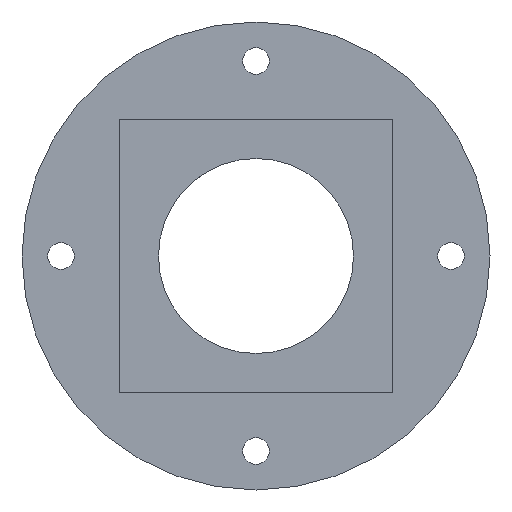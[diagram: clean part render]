
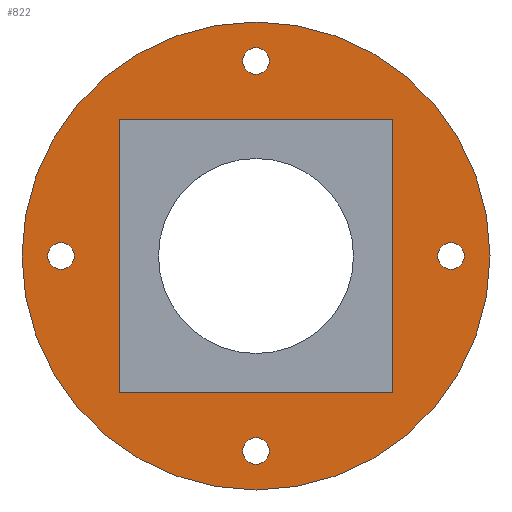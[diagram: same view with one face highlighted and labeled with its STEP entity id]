
A CAD part, front view. The second image highlights one B-rep face of the part: STEP entity #822.
In plain terms, the highlighted planar face has unit normal (0, -1, 0).
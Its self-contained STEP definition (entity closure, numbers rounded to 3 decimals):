
#40=FACE_BOUND('',#163,.T.);
#41=FACE_BOUND('',#164,.T.);
#42=FACE_BOUND('',#165,.T.);
#43=FACE_BOUND('',#166,.T.);
#44=FACE_BOUND('',#167,.T.);
#56=CIRCLE('',#893,1.7);
#58=CIRCLE('',#896,1.7);
#60=CIRCLE('',#899,1.7);
#62=CIRCLE('',#902,1.7);
#64=CIRCLE('',#905,30.);
#104=FACE_OUTER_BOUND('',#162,.T.);
#162=EDGE_LOOP('',(#713));
#163=EDGE_LOOP('',(#714,#715,#716,#717));
#164=EDGE_LOOP('',(#718));
#165=EDGE_LOOP('',(#719));
#166=EDGE_LOOP('',(#720));
#167=EDGE_LOOP('',(#721));
#252=LINE('',#1396,#340);
#253=LINE('',#1398,#341);
#254=LINE('',#1400,#342);
#255=LINE('',#1401,#343);
#340=VECTOR('',#1104,10.);
#341=VECTOR('',#1105,10.);
#342=VECTOR('',#1106,10.);
#343=VECTOR('',#1107,10.);
#407=VERTEX_POINT('',#1365);
#409=VERTEX_POINT('',#1371);
#411=VERTEX_POINT('',#1377);
#413=VERTEX_POINT('',#1383);
#415=VERTEX_POINT('',#1389);
#416=VERTEX_POINT('',#1394);
#417=VERTEX_POINT('',#1395);
#418=VERTEX_POINT('',#1397);
#419=VERTEX_POINT('',#1399);
#506=EDGE_CURVE('',#407,#407,#56,.T.);
#509=EDGE_CURVE('',#409,#409,#58,.T.);
#512=EDGE_CURVE('',#411,#411,#60,.T.);
#515=EDGE_CURVE('',#413,#413,#62,.T.);
#518=EDGE_CURVE('',#415,#415,#64,.T.);
#519=EDGE_CURVE('',#416,#417,#252,.T.);
#520=EDGE_CURVE('',#417,#418,#253,.T.);
#521=EDGE_CURVE('',#418,#419,#254,.T.);
#522=EDGE_CURVE('',#419,#416,#255,.T.);
#713=ORIENTED_EDGE('',*,*,#518,.F.);
#714=ORIENTED_EDGE('',*,*,#519,.T.);
#715=ORIENTED_EDGE('',*,*,#520,.T.);
#716=ORIENTED_EDGE('',*,*,#521,.T.);
#717=ORIENTED_EDGE('',*,*,#522,.T.);
#718=ORIENTED_EDGE('',*,*,#506,.T.);
#719=ORIENTED_EDGE('',*,*,#509,.T.);
#720=ORIENTED_EDGE('',*,*,#512,.T.);
#721=ORIENTED_EDGE('',*,*,#515,.T.);
#778=PLANE('',#907);
#822=ADVANCED_FACE('',(#104,#40,#41,#42,#43,#44),#778,.F.);
#893=AXIS2_PLACEMENT_3D('',#1367,#1070,#1071);
#896=AXIS2_PLACEMENT_3D('',#1373,#1077,#1078);
#899=AXIS2_PLACEMENT_3D('',#1379,#1084,#1085);
#902=AXIS2_PLACEMENT_3D('',#1385,#1091,#1092);
#905=AXIS2_PLACEMENT_3D('',#1391,#1098,#1099);
#907=AXIS2_PLACEMENT_3D('',#1393,#1102,#1103);
#1070=DIRECTION('center_axis',(0.,1.,0.));
#1071=DIRECTION('ref_axis',(0.,0.,1.));
#1077=DIRECTION('center_axis',(0.,1.,0.));
#1078=DIRECTION('ref_axis',(-1.,0.,0.));
#1084=DIRECTION('center_axis',(0.,1.,0.));
#1085=DIRECTION('ref_axis',(0.,0.,-1.));
#1091=DIRECTION('center_axis',(0.,1.,0.));
#1092=DIRECTION('ref_axis',(1.,0.,0.));
#1098=DIRECTION('center_axis',(0.,1.,0.));
#1099=DIRECTION('ref_axis',(1.,0.,0.));
#1102=DIRECTION('center_axis',(0.,1.,0.));
#1103=DIRECTION('ref_axis',(0.,0.,1.));
#1104=DIRECTION('',(0.,0.,1.));
#1105=DIRECTION('',(1.,0.,0.));
#1106=DIRECTION('',(0.,0.,-1.));
#1107=DIRECTION('',(-1.,0.,0.));
#1365=CARTESIAN_POINT('',(0.,8.,23.3));
#1367=CARTESIAN_POINT('Origin',(0.,8.,
25.));
#1371=CARTESIAN_POINT('',(-23.3,8.,0.));
#1373=CARTESIAN_POINT('Origin',(-25.,8.,0.));
#1377=CARTESIAN_POINT('',(0.,8.,-23.3));
#1379=CARTESIAN_POINT('Origin',(0.,8.,-25.));
#1383=CARTESIAN_POINT('',(23.3,8.,0.));
#1385=CARTESIAN_POINT('Origin',(25.,8.,0.));
#1389=CARTESIAN_POINT('',(-30.,8.,0.));
#1391=CARTESIAN_POINT('Origin',(0.,8.,0.));
#1393=CARTESIAN_POINT('Origin',(0.,8.,0.));
#1394=CARTESIAN_POINT('',(-17.5,8.,-17.5));
#1395=CARTESIAN_POINT('',(-17.5,8.,17.5));
#1396=CARTESIAN_POINT('',(-17.5,8.,-17.5));
#1397=CARTESIAN_POINT('',(17.5,8.,17.5));
#1398=CARTESIAN_POINT('',(-17.5,8.,17.5));
#1399=CARTESIAN_POINT('',(17.5,8.,-17.5));
#1400=CARTESIAN_POINT('',(17.5,8.,17.5));
#1401=CARTESIAN_POINT('',(17.5,8.,-17.5));
